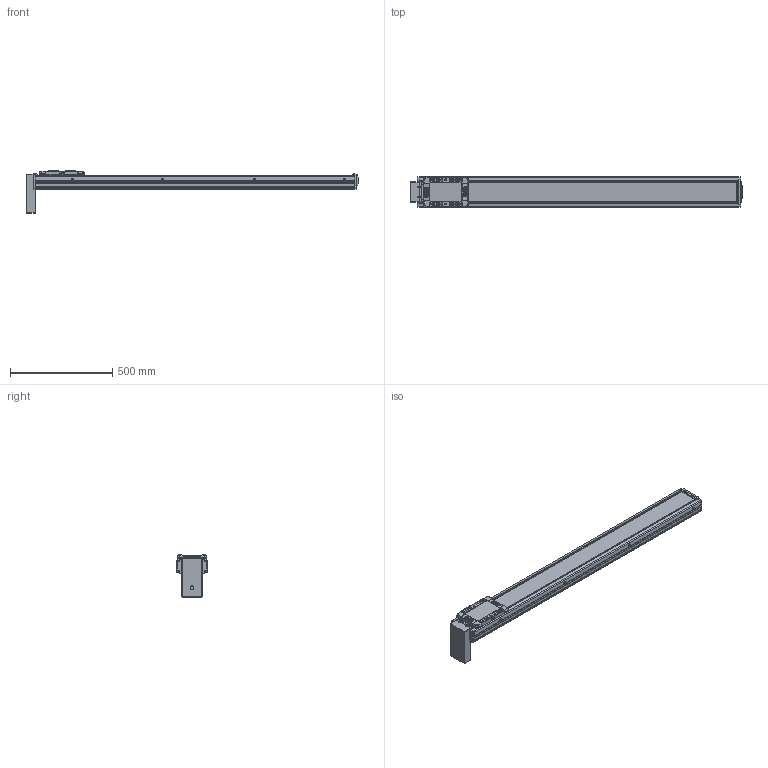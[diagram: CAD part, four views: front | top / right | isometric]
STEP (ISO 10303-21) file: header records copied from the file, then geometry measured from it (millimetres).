
FILE_DESCRIPTION(('STEP AP214'),'1');
FILE_NAME('Z:/Web/3D/SAN150/2013.04 (STP.)/SAN150ㅁㅁ-1300PB.stp','2013-05-07T08:43:08',(' '),(' '),'Spatial InterOp 3D',' ',' ');
FILE_SCHEMA(('automotive_design'));
Length unit declared in the file: millimetre
Products named in the file (44): SLBL-SAN150; SLCV-SAN150; FHCS M4.0 x 8.0; BHCS M4.0 x 10.0; SFX-SAN150; RRCV-SAN150; FRBL-SAN150; Spacer; RN15; FRCV-SAN150; Screw 20; BASE-SAN150-000L ; SUS COVER; 스크루 : Round - M5.0 x 6.0; PB; 스크루 : Round - M3.0 x 6.0
Bounding box: 1620 x 150 x 205.4 mm (x, y, z)
Volume: 8995948.3 mm3; surface area: 1575271.5 mm2
Topology: 44 solids, 44 shells, 2373 faces, 6085 edges, 3866 vertices
Faces by surface type: plane 1093, cylinder 865, cone 314, sphere 68, bspline 21, torus 12
Entity records: 94548 total; most frequent: CARTESIAN_POINT 15914, DIRECTION 12968, ORIENTED_EDGE 11890, EDGE_CURVE 5945, AXIS2_PLACEMENT_3D 4747, VERTEX_POINT 3866, LINE 3474, VECTOR 3474
